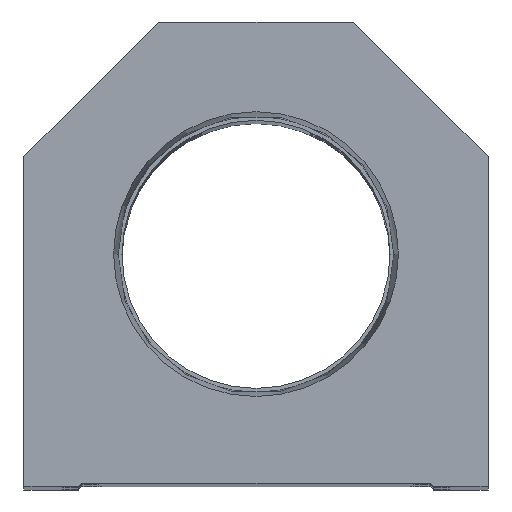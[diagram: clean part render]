
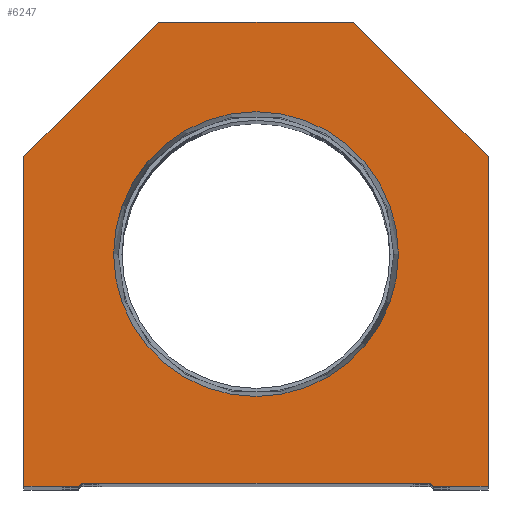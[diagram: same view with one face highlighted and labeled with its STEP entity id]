
A CAD part, top view. The second image highlights one B-rep face of the part: STEP entity #6247.
In plain terms, the highlighted planar face has unit normal (0, 0, 1).
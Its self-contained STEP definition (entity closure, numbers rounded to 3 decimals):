
#37 = VECTOR ( 'NONE', #2958, 1000. ) ;
#240 = VECTOR ( 'NONE', #4049, 1000. ) ;
#620 = DIRECTION ( 'NONE',  ( 0.707, 0.707, 0. ) ) ;
#814 = DIRECTION ( 'NONE',  ( 1., 0., 0. ) ) ;
#1259 = CARTESIAN_POINT ( 'NONE',  ( 29.1, 0., 0. ) ) ;
#1261 = VECTOR ( 'NONE', #17897, 1000. ) ;
#1385 = EDGE_CURVE ( 'NONE', #1868, #7145, #11747, .T. ) ;
#1435 = CARTESIAN_POINT ( 'NONE',  ( 14.55, 14.55, 0. ) ) ;
#1504 = EDGE_CURVE ( 'NONE', #16766, #1593, #11381, .T. ) ;
#1593 = VERTEX_POINT ( 'NONE', #4876 ) ;
#1683 = LINE ( 'NONE', #17262, #9196 ) ;
#1852 = EDGE_CURVE ( 'NONE', #12562, #19698, #7179, .T. ) ;
#1864 = VECTOR ( 'NONE', #16480, 1000. ) ;
#1868 = VERTEX_POINT ( 'NONE', #4354 ) ;
#1960 = EDGE_CURVE ( 'NONE', #10073, #12562, #1683, .T. ) ;
#2429 = EDGE_CURVE ( 'NONE', #7575, #16766, #6680, .T. ) ;
#2631 = AXIS2_PLACEMENT_3D ( 'NONE', #15588, #14033, #3354 ) ;
#2958 = DIRECTION ( 'NONE',  ( 0.707, -0.707, 0. ) ) ;
#2963 = VECTOR ( 'NONE', #814, 1000. ) ;
#3354 = DIRECTION ( 'NONE',  ( 1., 0., 0. ) ) ;
#3593 = VECTOR ( 'NONE', #18202, 1000. ) ;
#3714 = VERTEX_POINT ( 'NONE', #17629 ) ;
#3734 = DIRECTION ( 'NONE',  ( 0., 0., 1. ) ) ;
#3815 = EDGE_CURVE ( 'NONE', #19698, #5373, #14952, .T. ) ;
#3881 = LINE ( 'NONE', #3987, #13363 ) ;
#3958 = AXIS2_PLACEMENT_3D ( 'NONE', #10652, #19914, #18130 ) ;
#3987 = CARTESIAN_POINT ( 'NONE',  ( -14.55, 14.55, 0. ) ) ;
#4049 = DIRECTION ( 'NONE',  ( 1., 0., 0. ) ) ;
#4151 = CARTESIAN_POINT ( 'NONE',  ( -23.374, 38.1, 0. ) ) ;
#4239 = EDGE_CURVE ( 'NONE', #12603, #7575, #17787, .T. ) ;
#4354 = CARTESIAN_POINT ( 'NONE',  ( 23.374, 38.1, 0. ) ) ;
#4373 = ORIENTED_EDGE ( 'NONE', *, *, #20075, .T. ) ;
#4512 = ORIENTED_EDGE ( 'NONE', *, *, #1852, .T. ) ;
#4876 = CARTESIAN_POINT ( 'NONE',  ( -29.1, 0., 0. ) ) ;
#5063 = DIRECTION ( 'NONE',  ( 1., 0., 0. ) ) ;
#5373 = VERTEX_POINT ( 'NONE', #13147 ) ;
#6247 = ADVANCED_FACE ( 'NONE', ( #15967, #12982 ), #8492, .T. ) ;
#6572 = CARTESIAN_POINT ( 'NONE',  ( 0., 0., 0. ) ) ;
#6680 = LINE ( 'NONE', #10243, #1864 ) ;
#7145 = VERTEX_POINT ( 'NONE', #4151 ) ;
#7179 = LINE ( 'NONE', #10328, #3593 ) ;
#7368 = ORIENTED_EDGE ( 'NONE', *, *, #1504, .T. ) ;
#7575 = VERTEX_POINT ( 'NONE', #17540 ) ;
#7622 = LINE ( 'NONE', #1435, #37 ) ;
#7676 = EDGE_LOOP ( 'NONE', ( #7368, #16850, #18762, #15660, #14556, #4512, #19266, #4373, #19621, #18243 ) ) ;
#8492 = PLANE ( 'NONE',  #14437 ) ;
#8540 = CARTESIAN_POINT ( 'NONE',  ( -28.6, 0.5, 0. ) ) ;
#8594 = CARTESIAN_POINT ( 'NONE',  ( -28.6, 0.5, 0. ) ) ;
#8645 = VECTOR ( 'NONE', #18516, 1000. ) ;
#8685 = EDGE_CURVE ( 'NONE', #19795, #3714, #13389, .T. ) ;
#9196 = VECTOR ( 'NONE', #15755, 1000. ) ;
#10073 = VERTEX_POINT ( 'NONE', #1259 ) ;
#10243 = CARTESIAN_POINT ( 'NONE',  ( -38.1, 0., 0. ) ) ;
#10328 = CARTESIAN_POINT ( 'NONE',  ( 38.1, 0., 0. ) ) ;
#10479 = EDGE_LOOP ( 'NONE', ( #17590, #12903 ) ) ;
#10652 = CARTESIAN_POINT ( 'NONE',  ( 0., 38.1, 0. ) ) ;
#10795 = VECTOR ( 'NONE', #19180, 1000. ) ;
#11330 = CARTESIAN_POINT ( 'NONE',  ( -38.1, 54.1, 0. ) ) ;
#11381 = LINE ( 'NONE', #16099, #2963 ) ;
#11438 = CARTESIAN_POINT ( 'NONE',  ( -16., 76.2, 0. ) ) ;
#11565 = LINE ( 'NONE', #13087, #1261 ) ;
#11747 = CIRCLE ( 'NONE', #2631, 23.374 ) ;
#12562 = VERTEX_POINT ( 'NONE', #17260 ) ;
#12603 = VERTEX_POINT ( 'NONE', #11438 ) ;
#12903 = ORIENTED_EDGE ( 'NONE', *, *, #14811, .F. ) ;
#12982 = FACE_OUTER_BOUND ( 'NONE', #7676, .T. ) ;
#13087 = CARTESIAN_POINT ( 'NONE',  ( 16., 76.2, 0. ) ) ;
#13147 = CARTESIAN_POINT ( 'NONE',  ( 16., 76.2, 0. ) ) ;
#13363 = VECTOR ( 'NONE', #620, 1000. ) ;
#13389 = LINE ( 'NONE', #8594, #240 ) ;
#13627 = CARTESIAN_POINT ( 'NONE',  ( 38.1, 54.1, 0. ) ) ;
#14033 = DIRECTION ( 'NONE',  ( 0., 0., 1. ) ) ;
#14437 = AXIS2_PLACEMENT_3D ( 'NONE', #6572, #3734, #5063 ) ;
#14463 = EDGE_CURVE ( 'NONE', #3714, #10073, #7622, .T. ) ;
#14556 = ORIENTED_EDGE ( 'NONE', *, *, #1960, .T. ) ;
#14692 = EDGE_CURVE ( 'NONE', #1593, #19795, #3881, .T. ) ;
#14738 = CARTESIAN_POINT ( 'NONE',  ( -38.1, 0., 0. ) ) ;
#14811 = EDGE_CURVE ( 'NONE', #7145, #1868, #17263, .T. ) ;
#14952 = LINE ( 'NONE', #13627, #8645 ) ;
#15588 = CARTESIAN_POINT ( 'NONE',  ( 0., 38.1, 0. ) ) ;
#15660 = ORIENTED_EDGE ( 'NONE', *, *, #14463, .T. ) ;
#15755 = DIRECTION ( 'NONE',  ( 1., 0., 0. ) ) ;
#15967 = FACE_BOUND ( 'NONE', #10479, .T. ) ;
#16099 = CARTESIAN_POINT ( 'NONE',  ( -28.6, 0., 0. ) ) ;
#16480 = DIRECTION ( 'NONE',  ( 0., -1., 0. ) ) ;
#16766 = VERTEX_POINT ( 'NONE', #14738 ) ;
#16850 = ORIENTED_EDGE ( 'NONE', *, *, #14692, .T. ) ;
#17260 = CARTESIAN_POINT ( 'NONE',  ( 38.1, 0., 0. ) ) ;
#17262 = CARTESIAN_POINT ( 'NONE',  ( 28.6, 0., 0. ) ) ;
#17263 = CIRCLE ( 'NONE', #3958, 23.374 ) ;
#17540 = CARTESIAN_POINT ( 'NONE',  ( -38.1, 54.1, 0. ) ) ;
#17590 = ORIENTED_EDGE ( 'NONE', *, *, #1385, .F. ) ;
#17629 = CARTESIAN_POINT ( 'NONE',  ( 28.6, 0.5, 0. ) ) ;
#17787 = LINE ( 'NONE', #11330, #10795 ) ;
#17897 = DIRECTION ( 'NONE',  ( -1., 0., 0. ) ) ;
#18091 = CARTESIAN_POINT ( 'NONE',  ( 38.1, 54.1, 0. ) ) ;
#18130 = DIRECTION ( 'NONE',  ( 1., 0., 0. ) ) ;
#18202 = DIRECTION ( 'NONE',  ( 0., 1., 0. ) ) ;
#18243 = ORIENTED_EDGE ( 'NONE', *, *, #2429, .T. ) ;
#18516 = DIRECTION ( 'NONE',  ( -0.707, 0.707, 0. ) ) ;
#18762 = ORIENTED_EDGE ( 'NONE', *, *, #8685, .T. ) ;
#19180 = DIRECTION ( 'NONE',  ( -0.707, -0.707, 0. ) ) ;
#19266 = ORIENTED_EDGE ( 'NONE', *, *, #3815, .T. ) ;
#19621 = ORIENTED_EDGE ( 'NONE', *, *, #4239, .T. ) ;
#19698 = VERTEX_POINT ( 'NONE', #18091 ) ;
#19795 = VERTEX_POINT ( 'NONE', #8540 ) ;
#19914 = DIRECTION ( 'NONE',  ( 0., 0., 1. ) ) ;
#20075 = EDGE_CURVE ( 'NONE', #5373, #12603, #11565, .T. ) ;
